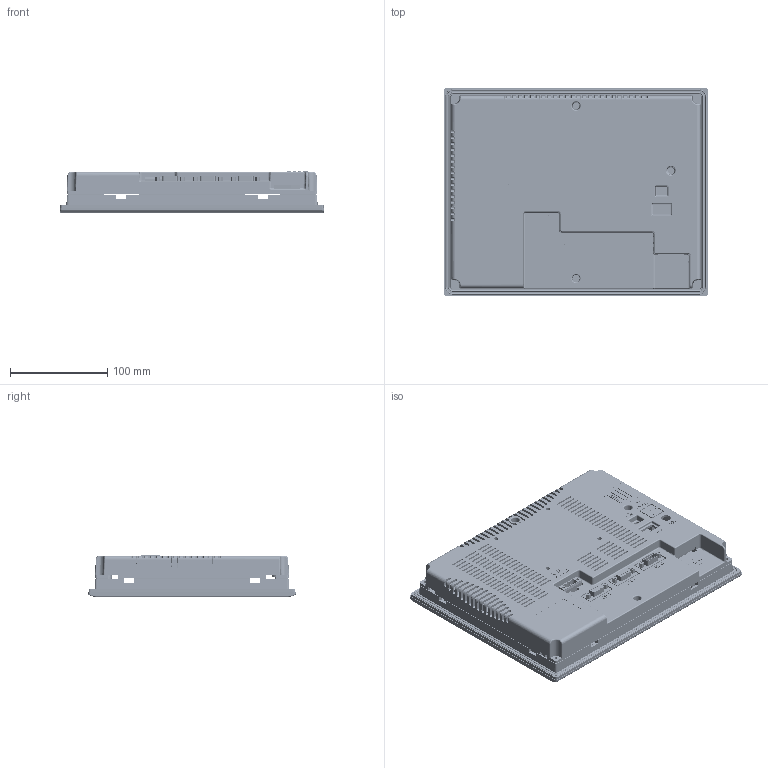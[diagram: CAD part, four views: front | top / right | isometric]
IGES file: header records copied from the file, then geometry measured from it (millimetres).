
Global section: file name: No Iges File Name specified; native system: AutoDesk Inventor R12.0; preprocessor: AutoDesk Inventor Iges Exporter R12.0; author: No Author specified; organization: No Organization specified; date: 20140318.135226; units: millimetre
Bounding box: 271 x 213 x 42.9 mm (x, y, z)
Volume: 577911.7 mm3; surface area: 403596.7 mm2
Topology: 1 solids, 1 shells, 19746 faces, 57943 edges, 38509 vertices
Faces by surface type: plane 18025, revolution 688, cylinder 575, bspline 411, cone 23, torus 18, sphere 6
